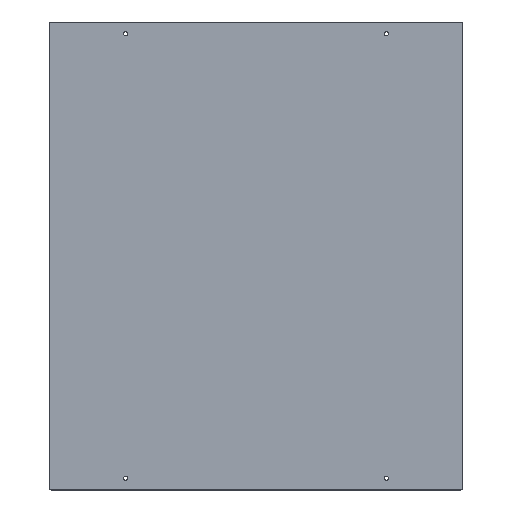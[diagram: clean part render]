
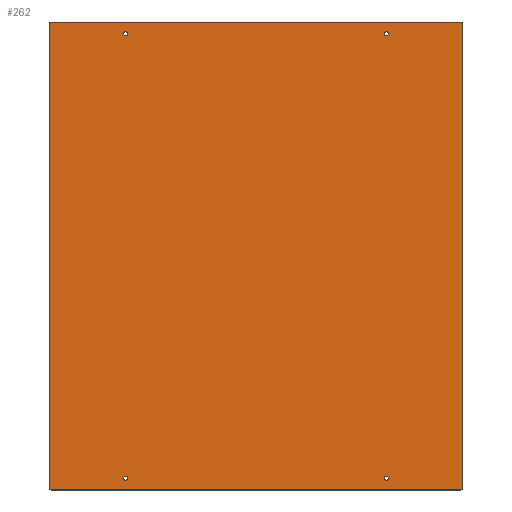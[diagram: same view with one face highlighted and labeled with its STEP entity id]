
A CAD part, top view. The second image highlights one B-rep face of the part: STEP entity #262.
In plain terms, the highlighted planar face has unit normal (0, 0, 1).
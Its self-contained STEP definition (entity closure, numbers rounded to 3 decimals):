
#15=FACE_BOUND('',#45,.T.);
#16=FACE_BOUND('',#46,.T.);
#17=FACE_BOUND('',#47,.T.);
#18=FACE_BOUND('',#48,.T.);
#23=PLANE('',#292);
#30=FACE_OUTER_BOUND('',#44,.T.);
#44=EDGE_LOOP('',(#185,#186,#187,#188,#189,#190,#191,#192));
#45=EDGE_LOOP('',(#193));
#46=EDGE_LOOP('',(#194));
#47=EDGE_LOOP('',(#195));
#48=EDGE_LOOP('',(#196));
#67=LINE('',#413,#87);
#68=LINE('',#417,#88);
#69=LINE('',#421,#89);
#70=LINE('',#424,#90);
#87=VECTOR('',#331,10.);
#88=VECTOR('',#334,10.);
#89=VECTOR('',#337,10.);
#90=VECTOR('',#340,10.);
#105=CIRCLE('',#290,2.);
#107=CIRCLE('',#293,2.);
#108=CIRCLE('',#294,2.);
#109=CIRCLE('',#295,2.);
#110=CIRCLE('',#296,3.5);
#111=CIRCLE('',#297,3.5);
#112=CIRCLE('',#298,3.5);
#113=CIRCLE('',#299,3.5);
#121=VERTEX_POINT('',#403);
#122=VERTEX_POINT('',#404);
#125=VERTEX_POINT('',#412);
#126=VERTEX_POINT('',#414);
#127=VERTEX_POINT('',#416);
#128=VERTEX_POINT('',#418);
#129=VERTEX_POINT('',#420);
#130=VERTEX_POINT('',#422);
#131=VERTEX_POINT('',#425);
#132=VERTEX_POINT('',#427);
#133=VERTEX_POINT('',#429);
#134=VERTEX_POINT('',#431);
#145=EDGE_CURVE('',#121,#122,#105,.T.);
#149=EDGE_CURVE('',#121,#125,#67,.T.);
#150=EDGE_CURVE('',#126,#125,#107,.T.);
#151=EDGE_CURVE('',#126,#127,#68,.T.);
#152=EDGE_CURVE('',#128,#127,#108,.T.);
#153=EDGE_CURVE('',#128,#129,#69,.T.);
#154=EDGE_CURVE('',#130,#129,#109,.T.);
#155=EDGE_CURVE('',#130,#122,#70,.T.);
#156=EDGE_CURVE('',#131,#131,#110,.T.);
#157=EDGE_CURVE('',#132,#132,#111,.T.);
#158=EDGE_CURVE('',#133,#133,#112,.T.);
#159=EDGE_CURVE('',#134,#134,#113,.T.);
#185=ORIENTED_EDGE('',*,*,#145,.F.);
#186=ORIENTED_EDGE('',*,*,#149,.T.);
#187=ORIENTED_EDGE('',*,*,#150,.F.);
#188=ORIENTED_EDGE('',*,*,#151,.T.);
#189=ORIENTED_EDGE('',*,*,#152,.F.);
#190=ORIENTED_EDGE('',*,*,#153,.T.);
#191=ORIENTED_EDGE('',*,*,#154,.F.);
#192=ORIENTED_EDGE('',*,*,#155,.T.);
#193=ORIENTED_EDGE('',*,*,#156,.T.);
#194=ORIENTED_EDGE('',*,*,#157,.T.);
#195=ORIENTED_EDGE('',*,*,#158,.T.);
#196=ORIENTED_EDGE('',*,*,#159,.T.);
#262=ADVANCED_FACE('',(#30,#15,#16,#17,#18),#23,.T.);
#290=AXIS2_PLACEMENT_3D('',#405,#323,#324);
#292=AXIS2_PLACEMENT_3D('',#411,#329,#330);
#293=AXIS2_PLACEMENT_3D('',#415,#332,#333);
#294=AXIS2_PLACEMENT_3D('',#419,#335,#336);
#295=AXIS2_PLACEMENT_3D('',#423,#338,#339);
#296=AXIS2_PLACEMENT_3D('',#426,#341,#342);
#297=AXIS2_PLACEMENT_3D('',#428,#343,#344);
#298=AXIS2_PLACEMENT_3D('',#430,#345,#346);
#299=AXIS2_PLACEMENT_3D('',#432,#347,#348);
#323=DIRECTION('center_axis',(0.,0.,-1.));
#324=DIRECTION('ref_axis',(0.707,-0.707,0.));
#329=DIRECTION('center_axis',(0.,0.,1.));
#330=DIRECTION('ref_axis',(1.,0.,0.));
#331=DIRECTION('',(0.,1.,0.));
#332=DIRECTION('center_axis',(0.,0.,-1.));
#333=DIRECTION('ref_axis',(0.707,0.707,0.));
#334=DIRECTION('',(-1.,0.,0.));
#335=DIRECTION('center_axis',(0.,0.,-1.));
#336=DIRECTION('ref_axis',(-0.707,0.707,0.));
#337=DIRECTION('',(0.,-1.,0.));
#338=DIRECTION('center_axis',(0.,0.,-1.));
#339=DIRECTION('ref_axis',(-0.707,-0.707,0.));
#340=DIRECTION('',(1.,0.,0.));
#341=DIRECTION('center_axis',(0.,0.,-1.));
#342=DIRECTION('ref_axis',(1.,0.,0.));
#343=DIRECTION('center_axis',(0.,0.,-1.));
#344=DIRECTION('ref_axis',(1.,0.,0.));
#345=DIRECTION('center_axis',(0.,0.,-1.));
#346=DIRECTION('ref_axis',(1.,0.,0.));
#347=DIRECTION('center_axis',(0.,0.,-1.));
#348=DIRECTION('ref_axis',(1.,0.,0.));
#403=CARTESIAN_POINT('',(696.,2.,3.67));
#404=CARTESIAN_POINT('',(694.,0.,3.67));
#405=CARTESIAN_POINT('Origin',(694.,2.,3.67));
#411=CARTESIAN_POINT('Origin',(348.,395.,3.67));
#412=CARTESIAN_POINT('',(696.,788.,3.67));
#413=CARTESIAN_POINT('',(696.,790.,3.67));
#414=CARTESIAN_POINT('',(694.,790.,3.67));
#415=CARTESIAN_POINT('Origin',(694.,788.,3.67));
#416=CARTESIAN_POINT('',(2.,790.,3.67));
#417=CARTESIAN_POINT('',(1392.,790.,3.67));
#418=CARTESIAN_POINT('',(0.,788.,3.67));
#419=CARTESIAN_POINT('Origin',(2.,788.,3.67));
#420=CARTESIAN_POINT('',(0.,2.,3.67));
#421=CARTESIAN_POINT('',(0.,790.,3.67));
#422=CARTESIAN_POINT('',(2.,0.,3.67));
#423=CARTESIAN_POINT('Origin',(2.,2.,3.67));
#424=CARTESIAN_POINT('',(0.,0.,3.67));
#425=CARTESIAN_POINT('',(564.5,770.,3.67));
#426=CARTESIAN_POINT('Origin',(568.,770.,3.67));
#427=CARTESIAN_POINT('',(124.5,770.,3.67));
#428=CARTESIAN_POINT('Origin',(128.,770.,3.67));
#429=CARTESIAN_POINT('',(564.5,20.,3.67));
#430=CARTESIAN_POINT('Origin',(568.,20.,3.67));
#431=CARTESIAN_POINT('',(124.5,20.,3.67));
#432=CARTESIAN_POINT('Origin',(128.,20.,3.67));
